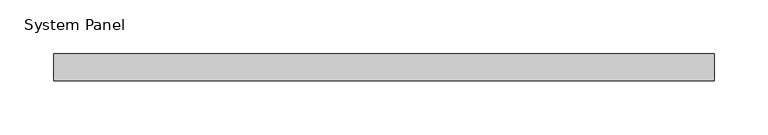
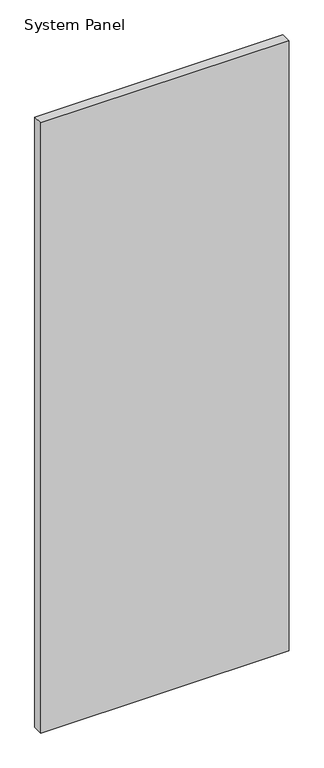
"""IFC4 building model written with IfcOpenShell, lengths in millimetres: plate geometry, System Panel : Spandral Panel."""

from ifc_helpers import new_model, si_unit, origin, origin_with_axes, place, context, project, spatial, polyline, outline, extrude, source, transform, mapped, element, save


def system_panel_0d1f19e3(model_context):
    return source(origin(), model_context, "Body", "SweptSolid", [
        extrude(outline(polyline([(307.975, 19.05), (-307.975, 19.05), (-307.975, 44.45), (307.975, 44.45), (307.975, 19.05)])), origin_with_axes(), (0.0, 0.0, 1.0), 1600.2),
    ])


if __name__ == "__main__":
    model = new_model("IFC4")
    model_context = context("Model", 3, world=origin())
    ifc_project = project(units=[si_unit("LENGTHUNIT", "METRE", prefix="MILLI")], contexts=[model_context])
    site = spatial("IfcSite", under=ifc_project)
    building = spatial("IfcBuilding", under=site)
    placement = place(None, origin())
    system_panel_shape = system_panel_0d1f19e3(model_context)
    element("IfcPlate", 1, ObjectType="System Panel : Spandral Panel", at=placement, inside=building, context=model_context, shape_type="MappedRepresentation", body=[
        mapped(system_panel_shape, transform((0.0, 0.0, 0.0), x_axis=(1.0, 0.0, 0.0), y_axis=(0.0, 1.0, 0.0), z_axis=(0.0, 0.0, 1.0))),
    ])
    save(model, "model.ifc")
